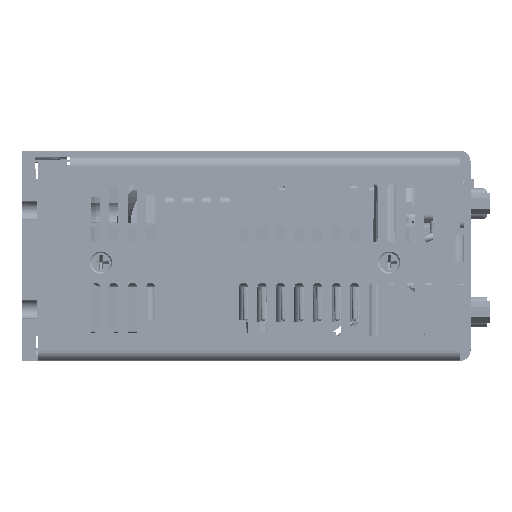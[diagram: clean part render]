
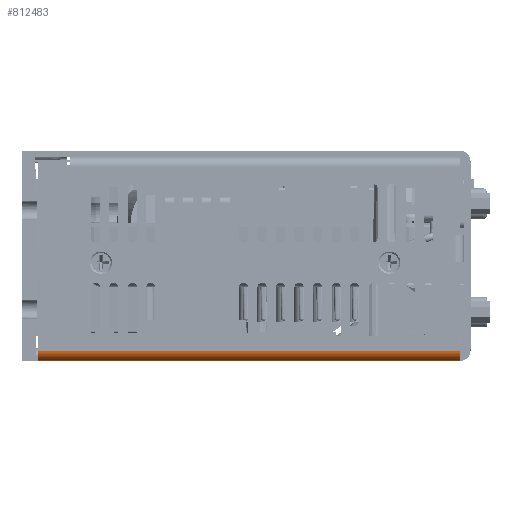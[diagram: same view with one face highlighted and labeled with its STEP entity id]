
A CAD part, left-side view. The second image highlights one B-rep face of the part: STEP entity #812483.
In plain terms, the highlighted cylindrical face has radius 2.616 mm (diameter 5.232 mm), a partial arc.
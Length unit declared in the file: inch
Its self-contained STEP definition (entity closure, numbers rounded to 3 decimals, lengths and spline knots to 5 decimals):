
#10960 = AXIS2_PLACEMENT_3D ( 'NONE', #461166, #613530, #83637 ) ;
#47909 = VERTEX_POINT ( 'NONE', #301622 ) ;
#48507 = LINE ( 'NONE', #229362, #629158 ) ;
#56013 = EDGE_CURVE ( 'NONE', #729613, #669587, #785055, .T. ) ;
#83637 = DIRECTION ( 'NONE',  ( -1., 0., 0. ) ) ;
#109270 = DIRECTION ( 'NONE',  ( 0., 1., 0. ) ) ;
#145400 = CARTESIAN_POINT ( 'NONE',  ( -3.207, 2.17, -0.962 ) ) ;
#157602 = DIRECTION ( 'NONE',  ( 0., -1., 0. ) ) ;
#195974 = ORIENTED_EDGE ( 'NONE', *, *, #56013, .T. ) ;
#210335 = CIRCLE ( 'NONE', #681223, 0.103 ) ;
#221503 = DIRECTION ( 'NONE',  ( 0., 0., -1. ) ) ;
#229362 = CARTESIAN_POINT ( 'NONE',  ( -3.207, -2.107, -1.065 ) ) ;
#301622 = CARTESIAN_POINT ( 'NONE',  ( -3.207, 2.17, -1.065 ) ) ;
#304598 = ORIENTED_EDGE ( 'NONE', *, *, #416369, .F. ) ;
#305618 = DIRECTION ( 'NONE',  ( 0., 1., 0. ) ) ;
#345148 = CYLINDRICAL_SURFACE ( 'NONE', #10960, 0.103 ) ;
#368930 = FACE_OUTER_BOUND ( 'NONE', #553439, .T. ) ;
#416369 = EDGE_CURVE ( 'NONE', #871401, #47909, #48507, .T. ) ;
#456265 = CARTESIAN_POINT ( 'NONE',  ( -3.31, -2.107, -0.962 ) ) ;
#461166 = CARTESIAN_POINT ( 'NONE',  ( -3.207, -2.107, -0.962 ) ) ;
#486622 = CARTESIAN_POINT ( 'NONE',  ( -3.31, 2.19, -0.962 ) ) ;
#553439 = EDGE_LOOP ( 'NONE', ( #705835, #304598, #793296, #195974 ) ) ;
#610213 = AXIS2_PLACEMENT_3D ( 'NONE', #145400, #675262, #221503 ) ;
#611296 = CARTESIAN_POINT ( 'NONE',  ( -3.207, -2.107, -0.962 ) ) ;
#613530 = DIRECTION ( 'NONE',  ( 0., -1., 0. ) ) ;
#629158 = VECTOR ( 'NONE', #305618, 39.37008 ) ;
#645209 = EDGE_CURVE ( 'NONE', #729613, #871401, #210335, .T. ) ;
#669587 = VERTEX_POINT ( 'NONE', #690466 ) ;
#675262 = DIRECTION ( 'NONE',  ( 0., 1., 0. ) ) ;
#681223 = AXIS2_PLACEMENT_3D ( 'NONE', #611296, #157602, #687432 ) ;
#687432 = DIRECTION ( 'NONE',  ( 0., 0., -1. ) ) ;
#690466 = CARTESIAN_POINT ( 'NONE',  ( -3.31, 2.17, -0.962 ) ) ;
#705835 = ORIENTED_EDGE ( 'NONE', *, *, #808390, .F. ) ;
#722170 = CIRCLE ( 'NONE', #610213, 0.103 ) ;
#729613 = VERTEX_POINT ( 'NONE', #456265 ) ;
#785055 = LINE ( 'NONE', #486622, #962669 ) ;
#793296 = ORIENTED_EDGE ( 'NONE', *, *, #645209, .F. ) ;
#808390 = EDGE_CURVE ( 'NONE', #47909, #669587, #722170, .T. ) ;
#812483 = ADVANCED_FACE ( 'NONE', ( #368930 ), #345148, .T. ) ;
#853161 = CARTESIAN_POINT ( 'NONE',  ( -3.207, -2.107, -1.065 ) ) ;
#871401 = VERTEX_POINT ( 'NONE', #853161 ) ;
#962669 = VECTOR ( 'NONE', #109270, 39.37008 ) ;
